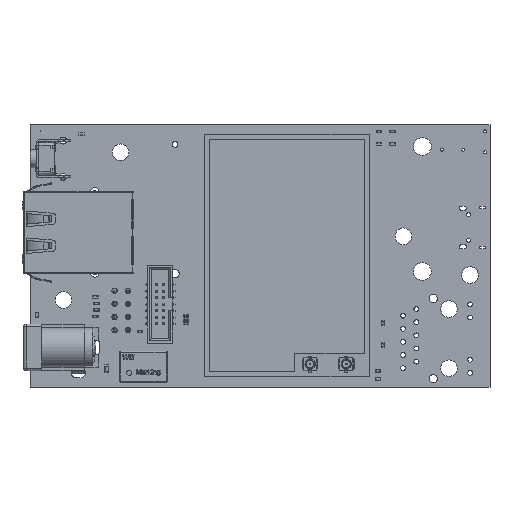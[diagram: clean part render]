
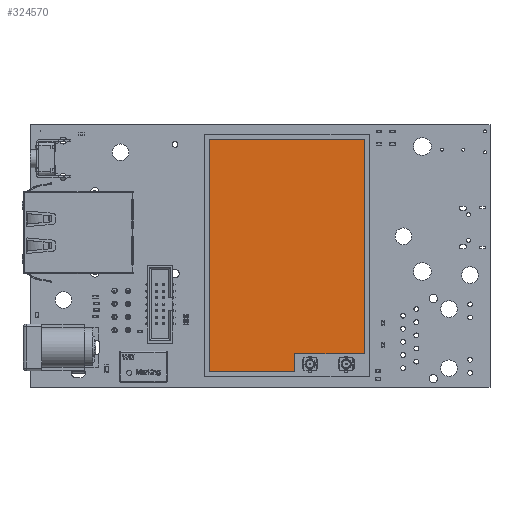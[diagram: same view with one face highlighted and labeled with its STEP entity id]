
A CAD part, top view. The second image highlights one B-rep face of the part: STEP entity #324570.
In plain terms, the highlighted planar face has unit normal (0, 0, 1).
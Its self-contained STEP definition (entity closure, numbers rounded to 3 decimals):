
#324102 = VERTEX_POINT('',#324103);
#324103 = CARTESIAN_POINT('',(-15.,-22.5,2.4));
#324110 = PLANE('',#324111);
#324111 = AXIS2_PLACEMENT_3D('',#324112,#324113,#324114);
#324112 = CARTESIAN_POINT('',(-15.,-22.5,0.));
#324113 = DIRECTION('',(-1.,0.,0.));
#324114 = DIRECTION('',(0.,1.,0.));
#324122 = PLANE('',#324123);
#324123 = AXIS2_PLACEMENT_3D('',#324124,#324125,#324126);
#324124 = CARTESIAN_POINT('',(1.5,-22.5,0.));
#324125 = DIRECTION('',(0.,-1.,0.));
#324126 = DIRECTION('',(-1.,0.,0.));
#324134 = EDGE_CURVE('',#324102,#324135,#324137,.T.);
#324135 = VERTEX_POINT('',#324136);
#324136 = CARTESIAN_POINT('',(-15.,22.5,2.4));
#324137 = SURFACE_CURVE('',#324138,(#324142,#324149),.PCURVE_S1.);
#324138 = LINE('',#324139,#324140);
#324139 = CARTESIAN_POINT('',(-15.,-22.5,2.4));
#324140 = VECTOR('',#324141,1.);
#324141 = DIRECTION('',(0.,1.,0.));
#324142 = PCURVE('',#324110,#324143);
#324143 = DEFINITIONAL_REPRESENTATION('',(#324144),#324148);
#324144 = LINE('',#324145,#324146);
#324145 = CARTESIAN_POINT('',(0.,-2.4));
#324146 = VECTOR('',#324147,1.);
#324147 = DIRECTION('',(1.,0.));
#324148 = ( GEOMETRIC_REPRESENTATION_CONTEXT(2) 
PARAMETRIC_REPRESENTATION_CONTEXT() REPRESENTATION_CONTEXT('2D SPACE',''
  ) );
#324149 = PCURVE('',#324150,#324155);
#324150 = PLANE('',#324151);
#324151 = AXIS2_PLACEMENT_3D('',#324152,#324153,#324154);
#324152 = CARTESIAN_POINT('',(-15.,-22.5,2.4));
#324153 = DIRECTION('',(0.,0.,1.));
#324154 = DIRECTION('',(1.,0.,0.));
#324155 = DEFINITIONAL_REPRESENTATION('',(#324156),#324160);
#324156 = LINE('',#324157,#324158);
#324157 = CARTESIAN_POINT('',(0.,0.));
#324158 = VECTOR('',#324159,1.);
#324159 = DIRECTION('',(0.,1.));
#324160 = ( GEOMETRIC_REPRESENTATION_CONTEXT(2) 
PARAMETRIC_REPRESENTATION_CONTEXT() REPRESENTATION_CONTEXT('2D SPACE',''
  ) );
#324178 = PLANE('',#324179);
#324179 = AXIS2_PLACEMENT_3D('',#324180,#324181,#324182);
#324180 = CARTESIAN_POINT('',(-15.,22.5,0.));
#324181 = DIRECTION('',(0.,1.,0.));
#324182 = DIRECTION('',(1.,0.,0.));
#324220 = EDGE_CURVE('',#324135,#324221,#324223,.T.);
#324221 = VERTEX_POINT('',#324222);
#324222 = CARTESIAN_POINT('',(15.,22.5,2.4));
#324223 = SURFACE_CURVE('',#324224,(#324228,#324235),.PCURVE_S1.);
#324224 = LINE('',#324225,#324226);
#324225 = CARTESIAN_POINT('',(-15.,22.5,2.4));
#324226 = VECTOR('',#324227,1.);
#324227 = DIRECTION('',(1.,0.,0.));
#324228 = PCURVE('',#324178,#324229);
#324229 = DEFINITIONAL_REPRESENTATION('',(#324230),#324234);
#324230 = LINE('',#324231,#324232);
#324231 = CARTESIAN_POINT('',(0.,-2.4));
#324232 = VECTOR('',#324233,1.);
#324233 = DIRECTION('',(1.,0.));
#324234 = ( GEOMETRIC_REPRESENTATION_CONTEXT(2) 
PARAMETRIC_REPRESENTATION_CONTEXT() REPRESENTATION_CONTEXT('2D SPACE',''
  ) );
#324235 = PCURVE('',#324150,#324236);
#324236 = DEFINITIONAL_REPRESENTATION('',(#324237),#324241);
#324237 = LINE('',#324238,#324239);
#324238 = CARTESIAN_POINT('',(0.,45.));
#324239 = VECTOR('',#324240,1.);
#324240 = DIRECTION('',(1.,0.));
#324241 = ( GEOMETRIC_REPRESENTATION_CONTEXT(2) 
PARAMETRIC_REPRESENTATION_CONTEXT() REPRESENTATION_CONTEXT('2D SPACE',''
  ) );
#324259 = PLANE('',#324260);
#324260 = AXIS2_PLACEMENT_3D('',#324261,#324262,#324263);
#324261 = CARTESIAN_POINT('',(15.,22.5,0.));
#324262 = DIRECTION('',(1.,0.,0.));
#324263 = DIRECTION('',(0.,-1.,0.));
#324296 = EDGE_CURVE('',#324221,#324297,#324299,.T.);
#324297 = VERTEX_POINT('',#324298);
#324298 = CARTESIAN_POINT('',(15.,-19.,2.4));
#324299 = SURFACE_CURVE('',#324300,(#324304,#324311),.PCURVE_S1.);
#324300 = LINE('',#324301,#324302);
#324301 = CARTESIAN_POINT('',(15.,22.5,2.4));
#324302 = VECTOR('',#324303,1.);
#324303 = DIRECTION('',(0.,-1.,0.));
#324304 = PCURVE('',#324259,#324305);
#324305 = DEFINITIONAL_REPRESENTATION('',(#324306),#324310);
#324306 = LINE('',#324307,#324308);
#324307 = CARTESIAN_POINT('',(0.,-2.4));
#324308 = VECTOR('',#324309,1.);
#324309 = DIRECTION('',(1.,0.));
#324310 = ( GEOMETRIC_REPRESENTATION_CONTEXT(2) 
PARAMETRIC_REPRESENTATION_CONTEXT() REPRESENTATION_CONTEXT('2D SPACE',''
  ) );
#324311 = PCURVE('',#324150,#324312);
#324312 = DEFINITIONAL_REPRESENTATION('',(#324313),#324317);
#324313 = LINE('',#324314,#324315);
#324314 = CARTESIAN_POINT('',(30.,45.));
#324315 = VECTOR('',#324316,1.);
#324316 = DIRECTION('',(0.,-1.));
#324317 = ( GEOMETRIC_REPRESENTATION_CONTEXT(2) 
PARAMETRIC_REPRESENTATION_CONTEXT() REPRESENTATION_CONTEXT('2D SPACE',''
  ) );
#324335 = PLANE('',#324336);
#324336 = AXIS2_PLACEMENT_3D('',#324337,#324338,#324339);
#324337 = CARTESIAN_POINT('',(15.,-19.,0.));
#324338 = DIRECTION('',(0.,-1.,0.));
#324339 = DIRECTION('',(-1.,0.,0.));
#324372 = EDGE_CURVE('',#324297,#324373,#324375,.T.);
#324373 = VERTEX_POINT('',#324374);
#324374 = CARTESIAN_POINT('',(1.5,-19.,2.4));
#324375 = SURFACE_CURVE('',#324376,(#324380,#324387),.PCURVE_S1.);
#324376 = LINE('',#324377,#324378);
#324377 = CARTESIAN_POINT('',(15.,-19.,2.4));
#324378 = VECTOR('',#324379,1.);
#324379 = DIRECTION('',(-1.,0.,0.));
#324380 = PCURVE('',#324335,#324381);
#324381 = DEFINITIONAL_REPRESENTATION('',(#324382),#324386);
#324382 = LINE('',#324383,#324384);
#324383 = CARTESIAN_POINT('',(0.,-2.4));
#324384 = VECTOR('',#324385,1.);
#324385 = DIRECTION('',(1.,0.));
#324386 = ( GEOMETRIC_REPRESENTATION_CONTEXT(2) 
PARAMETRIC_REPRESENTATION_CONTEXT() REPRESENTATION_CONTEXT('2D SPACE',''
  ) );
#324387 = PCURVE('',#324150,#324388);
#324388 = DEFINITIONAL_REPRESENTATION('',(#324389),#324393);
#324389 = LINE('',#324390,#324391);
#324390 = CARTESIAN_POINT('',(30.,3.5));
#324391 = VECTOR('',#324392,1.);
#324392 = DIRECTION('',(-1.,0.));
#324393 = ( GEOMETRIC_REPRESENTATION_CONTEXT(2) 
PARAMETRIC_REPRESENTATION_CONTEXT() REPRESENTATION_CONTEXT('2D SPACE',''
  ) );
#324411 = PLANE('',#324412);
#324412 = AXIS2_PLACEMENT_3D('',#324413,#324414,#324415);
#324413 = CARTESIAN_POINT('',(1.5,-19.,0.));
#324414 = DIRECTION('',(1.,0.,0.));
#324415 = DIRECTION('',(0.,-1.,0.));
#324448 = EDGE_CURVE('',#324373,#324449,#324451,.T.);
#324449 = VERTEX_POINT('',#324450);
#324450 = CARTESIAN_POINT('',(1.5,-22.5,2.4));
#324451 = SURFACE_CURVE('',#324452,(#324456,#324463),.PCURVE_S1.);
#324452 = LINE('',#324453,#324454);
#324453 = CARTESIAN_POINT('',(1.5,-19.,2.4));
#324454 = VECTOR('',#324455,1.);
#324455 = DIRECTION('',(0.,-1.,0.));
#324456 = PCURVE('',#324411,#324457);
#324457 = DEFINITIONAL_REPRESENTATION('',(#324458),#324462);
#324458 = LINE('',#324459,#324460);
#324459 = CARTESIAN_POINT('',(0.,-2.4));
#324460 = VECTOR('',#324461,1.);
#324461 = DIRECTION('',(1.,0.));
#324462 = ( GEOMETRIC_REPRESENTATION_CONTEXT(2) 
PARAMETRIC_REPRESENTATION_CONTEXT() REPRESENTATION_CONTEXT('2D SPACE',''
  ) );
#324463 = PCURVE('',#324150,#324464);
#324464 = DEFINITIONAL_REPRESENTATION('',(#324465),#324469);
#324465 = LINE('',#324466,#324467);
#324466 = CARTESIAN_POINT('',(16.5,3.5));
#324467 = VECTOR('',#324468,1.);
#324468 = DIRECTION('',(0.,-1.));
#324469 = ( GEOMETRIC_REPRESENTATION_CONTEXT(2) 
PARAMETRIC_REPRESENTATION_CONTEXT() REPRESENTATION_CONTEXT('2D SPACE',''
  ) );
#324519 = EDGE_CURVE('',#324449,#324102,#324520,.T.);
#324520 = SURFACE_CURVE('',#324521,(#324525,#324532),.PCURVE_S1.);
#324521 = LINE('',#324522,#324523);
#324522 = CARTESIAN_POINT('',(1.5,-22.5,2.4));
#324523 = VECTOR('',#324524,1.);
#324524 = DIRECTION('',(-1.,0.,0.));
#324525 = PCURVE('',#324122,#324526);
#324526 = DEFINITIONAL_REPRESENTATION('',(#324527),#324531);
#324527 = LINE('',#324528,#324529);
#324528 = CARTESIAN_POINT('',(0.,-2.4));
#324529 = VECTOR('',#324530,1.);
#324530 = DIRECTION('',(1.,0.));
#324531 = ( GEOMETRIC_REPRESENTATION_CONTEXT(2) 
PARAMETRIC_REPRESENTATION_CONTEXT() REPRESENTATION_CONTEXT('2D SPACE',''
  ) );
#324532 = PCURVE('',#324150,#324533);
#324533 = DEFINITIONAL_REPRESENTATION('',(#324534),#324538);
#324534 = LINE('',#324535,#324536);
#324535 = CARTESIAN_POINT('',(16.5,0.));
#324536 = VECTOR('',#324537,1.);
#324537 = DIRECTION('',(-1.,0.));
#324538 = ( GEOMETRIC_REPRESENTATION_CONTEXT(2) 
PARAMETRIC_REPRESENTATION_CONTEXT() REPRESENTATION_CONTEXT('2D SPACE',''
  ) );
#324570 = ADVANCED_FACE('',(#324571),#324150,.T.);
#324571 = FACE_BOUND('',#324572,.F.);
#324572 = EDGE_LOOP('',(#324573,#324574,#324575,#324576,#324577,#324578)
  );
#324573 = ORIENTED_EDGE('',*,*,#324134,.T.);
#324574 = ORIENTED_EDGE('',*,*,#324220,.T.);
#324575 = ORIENTED_EDGE('',*,*,#324296,.T.);
#324576 = ORIENTED_EDGE('',*,*,#324372,.T.);
#324577 = ORIENTED_EDGE('',*,*,#324448,.T.);
#324578 = ORIENTED_EDGE('',*,*,#324519,.T.);
